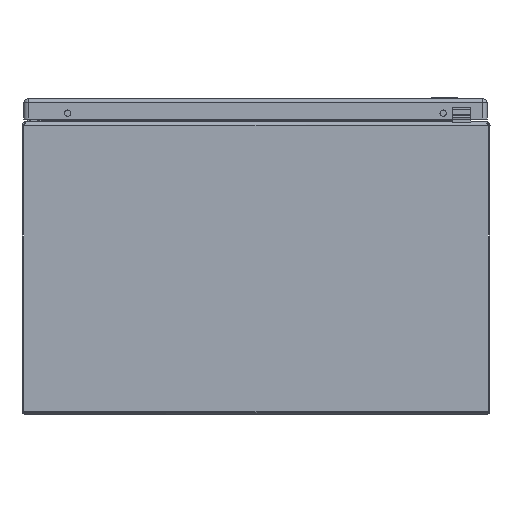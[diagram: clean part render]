
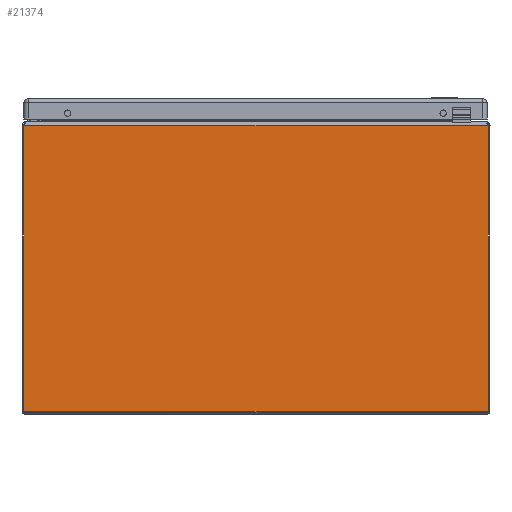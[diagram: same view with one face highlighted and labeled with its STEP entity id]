
A CAD part, front view. The second image highlights one B-rep face of the part: STEP entity #21374.
In plain terms, the highlighted planar face has unit normal (0, -1, 0).
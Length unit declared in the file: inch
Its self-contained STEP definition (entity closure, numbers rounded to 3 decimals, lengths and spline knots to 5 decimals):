
#5506 = DIRECTION ( 'NONE',  ( 1., 0., 0. ) ) ;
#5507 = CARTESIAN_POINT ( 'NONE',  ( -128., -12., 0.097 ) ) ;
#5514 = DIRECTION ( 'NONE',  ( 1., 0., 0. ) ) ;
#5515 = CARTESIAN_POINT ( 'NONE',  ( -128., -12., 9.859 ) ) ;
#5538 = DIRECTION ( 'NONE',  ( 0., 0., 1. ) ) ;
#5540 = CARTESIAN_POINT ( 'NONE',  ( 7.94693, -12., 9.859 ) ) ;
#5809 = DIRECTION ( 'NONE',  ( 0., 0., -1. ) ) ;
#5819 = CARTESIAN_POINT ( 'NONE',  ( -7.94693, -12., 9.859 ) ) ;
#15205 = CARTESIAN_POINT ( 'NONE',  ( -7.94693, -12., 9.859 ) ) ;
#15271 = CARTESIAN_POINT ( 'NONE',  ( 7.94693, -12., 9.859 ) ) ;
#15272 = CARTESIAN_POINT ( 'NONE',  ( 7.94693, -12., 0.097 ) ) ;
#16171 = CARTESIAN_POINT ( 'NONE',  ( -7.94693, -12., 0.097 ) ) ;
#18180 = FACE_OUTER_BOUND ( 'NONE', #36033, .T. ) ;
#20040 = AXIS2_PLACEMENT_3D ( 'NONE', #29031, #29013, #29012 ) ;
#21374 = ADVANCED_FACE ( 'NONE', ( #18180 ), #29021, .T. ) ;
#29012 = DIRECTION ( 'NONE',  ( 0., 0., -1. ) ) ;
#29013 = DIRECTION ( 'NONE',  ( 0., -1., 0. ) ) ;
#29021 = PLANE ( 'NONE',  #20040 ) ;
#29031 = CARTESIAN_POINT ( 'NONE',  ( -128., -12., 9.859 ) ) ;
#36033 = EDGE_LOOP ( 'NONE', ( #38663, #38665, #38667, #38669 ) ) ;
#38663 = ORIENTED_EDGE ( 'NONE', *, *, #39694, .T. ) ;
#38665 = ORIENTED_EDGE ( 'NONE', *, *, #39704, .F. ) ;
#38667 = ORIENTED_EDGE ( 'NONE', *, *, #39651, .T. ) ;
#38669 = ORIENTED_EDGE ( 'NONE', *, *, #39708, .T. ) ;
#39651 = EDGE_CURVE ( 'NONE', #43717, #43634, #42089, .T. ) ;
#39694 = EDGE_CURVE ( 'NONE', #43888, #43889, #42144, .T. ) ;
#39704 = EDGE_CURVE ( 'NONE', #43717, #43889, #42172, .T. ) ;
#39708 = EDGE_CURVE ( 'NONE', #43634, #43888, #42179, .T. ) ;
#42081 = VECTOR ( 'NONE', #5809, 39.37008 ) ;
#42089 = LINE ( 'NONE', #5819, #42081 ) ;
#42144 = LINE ( 'NONE', #5540, #42154 ) ;
#42154 = VECTOR ( 'NONE', #5538, 39.37008 ) ;
#42172 = LINE ( 'NONE', #5515, #42173 ) ;
#42173 = VECTOR ( 'NONE', #5514, 39.37008 ) ;
#42179 = LINE ( 'NONE', #5507, #42180 ) ;
#42180 = VECTOR ( 'NONE', #5506, 39.37008 ) ;
#43634 = VERTEX_POINT ( 'NONE', #16171 ) ;
#43717 = VERTEX_POINT ( 'NONE', #15205 ) ;
#43888 = VERTEX_POINT ( 'NONE', #15272 ) ;
#43889 = VERTEX_POINT ( 'NONE', #15271 ) ;
